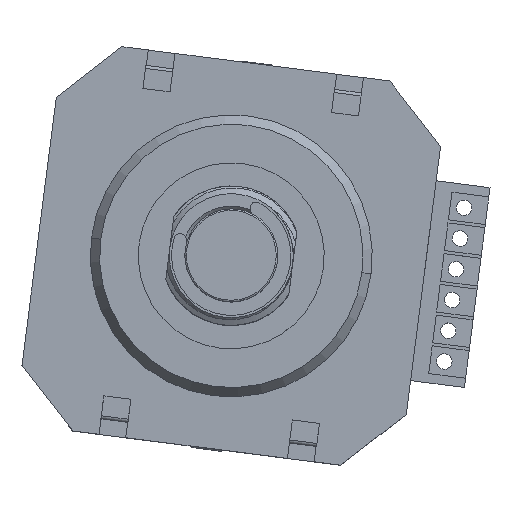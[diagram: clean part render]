
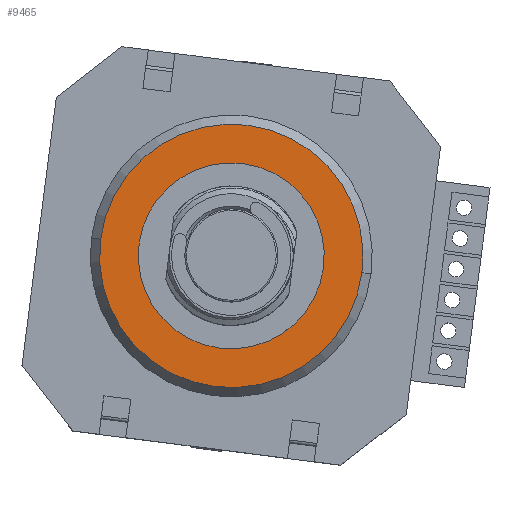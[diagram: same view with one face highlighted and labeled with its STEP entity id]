
A CAD part, top view. The second image highlights one B-rep face of the part: STEP entity #9465.
In plain terms, the highlighted planar face has unit normal (0, 0, 1) as drawn and (0, 0, -1) by its records, which use the part's own axes.
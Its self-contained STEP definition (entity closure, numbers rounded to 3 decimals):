
#2649 = AXIS2_PLACEMENT_3D ( 'NONE', #2658, #2657, #2656 ) ;
#2650 = CIRCLE ( 'NONE', #2649, 6. ) ;
#2656 = DIRECTION ( 'NONE',  ( 1., 0., 0. ) ) ;
#2657 = DIRECTION ( 'NONE',  ( 0., 0., 1. ) ) ;
#2658 = CARTESIAN_POINT ( 'NONE',  ( 0., 0., -0.8 ) ) ;
#2816 = CARTESIAN_POINT ( 'NONE',  ( -8.5, 0., -0.8 ) ) ;
#2819 = CIRCLE ( 'NONE', #2827, 8.5 ) ;
#2825 = DIRECTION ( 'NONE',  ( 0., 0., 1. ) ) ;
#2826 = CARTESIAN_POINT ( 'NONE',  ( 0., 0., -0.8 ) ) ;
#2827 = AXIS2_PLACEMENT_3D ( 'NONE', #2826, #2825, #2848 ) ;
#2848 = DIRECTION ( 'NONE',  ( 1., 0., 0. ) ) ;
#2882 = CARTESIAN_POINT ( 'NONE',  ( 6., 0., -0.8 ) ) ;
#2900 = CARTESIAN_POINT ( 'NONE',  ( 8.5, 0., -0.8 ) ) ;
#2916 = CARTESIAN_POINT ( 'NONE',  ( -6., 0., -0.8 ) ) ;
#9158 = EDGE_CURVE ( 'NONE', #9283, #9302, #2650, .T. ) ;
#9261 = VERTEX_POINT ( 'NONE', #2816 ) ;
#9263 = EDGE_CURVE ( 'NONE', #9279, #9261, #2819, .T. ) ;
#9279 = VERTEX_POINT ( 'NONE', #2900 ) ;
#9283 = VERTEX_POINT ( 'NONE', #2882 ) ;
#9302 = VERTEX_POINT ( 'NONE', #2916 ) ;
#9333 = EDGE_LOOP ( 'NONE', ( #9590, #9550 ) ) ;
#9465 = ADVANCED_FACE ( 'NONE', ( #11530, #11477 ), #11476, .F. ) ;
#9493 = EDGE_CURVE ( 'NONE', #9261, #9279, #10810, .T. ) ;
#9550 = ORIENTED_EDGE ( 'NONE', *, *, #9493, .F. ) ;
#9551 = EDGE_LOOP ( 'NONE', ( #9552, #9565 ) ) ;
#9552 = ORIENTED_EDGE ( 'NONE', *, *, #9158, .T. ) ;
#9565 = ORIENTED_EDGE ( 'NONE', *, *, #9566, .T. ) ;
#9566 = EDGE_CURVE ( 'NONE', #9302, #9283, #11043, .T. ) ;
#9590 = ORIENTED_EDGE ( 'NONE', *, *, #9263, .F. ) ;
#10806 = DIRECTION ( 'NONE',  ( 1., 0., 0. ) ) ;
#10810 = CIRCLE ( 'NONE', #10832, 8.5 ) ;
#10830 = DIRECTION ( 'NONE',  ( 0., 0., 1. ) ) ;
#10831 = CARTESIAN_POINT ( 'NONE',  ( 0., 0., -0.8 ) ) ;
#10832 = AXIS2_PLACEMENT_3D ( 'NONE', #10831, #10830, #10806 ) ;
#11039 = DIRECTION ( 'NONE',  ( 1., 0., 0. ) ) ;
#11040 = DIRECTION ( 'NONE',  ( 0., 0., 1. ) ) ;
#11041 = CARTESIAN_POINT ( 'NONE',  ( 0., 0., -0.8 ) ) ;
#11042 = AXIS2_PLACEMENT_3D ( 'NONE', #11041, #11040, #11039 ) ;
#11043 = CIRCLE ( 'NONE', #11042, 6. ) ;
#11472 = DIRECTION ( 'NONE',  ( 1., 0., 0. ) ) ;
#11473 = DIRECTION ( 'NONE',  ( 0., 0., 1. ) ) ;
#11474 = CARTESIAN_POINT ( 'NONE',  ( 0., 8.5, -0.8 ) ) ;
#11475 = AXIS2_PLACEMENT_3D ( 'NONE', #11474, #11473, #11472 ) ;
#11476 = PLANE ( 'NONE',  #11475 ) ;
#11477 = FACE_BOUND ( 'NONE', #9551, .T. ) ;
#11530 = FACE_OUTER_BOUND ( 'NONE', #9333, .T. ) ;
